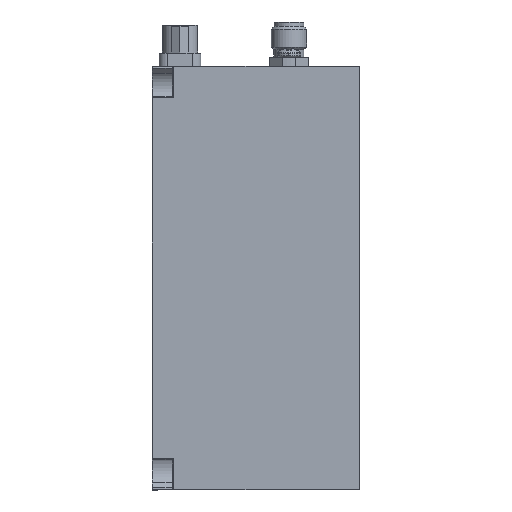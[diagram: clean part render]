
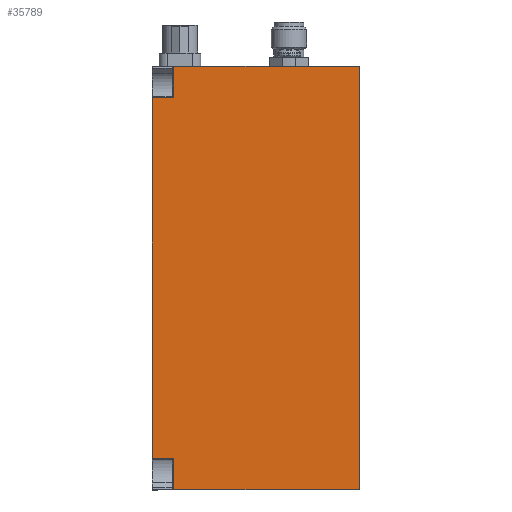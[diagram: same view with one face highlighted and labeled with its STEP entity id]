
A CAD part, left-side view. The second image highlights one B-rep face of the part: STEP entity #35789.
In plain terms, the highlighted planar face has unit normal (-1, 0, 0).
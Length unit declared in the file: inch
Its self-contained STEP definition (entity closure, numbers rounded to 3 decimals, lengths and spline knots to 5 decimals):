
#556 = CARTESIAN_POINT ( 'NONE',  ( -2., 0.069, -1.5 ) ) ;
#2050 = LINE ( 'NONE', #10570, #31388 ) ;
#2281 = DIRECTION ( 'NONE',  ( 0., 0., -1. ) ) ;
#3378 = CARTESIAN_POINT ( 'NONE',  ( -2., 1.53445, 1.5 ) ) ;
#3607 = CARTESIAN_POINT ( 'NONE',  ( -2., 0.069, 1.5 ) ) ;
#4306 = VERTEX_POINT ( 'NONE', #43351 ) ;
#4594 = EDGE_CURVE ( 'NONE', #4306, #6595, #8844, .T. ) ;
#4854 = DIRECTION ( 'NONE',  ( 0., 0., 1. ) ) ;
#4945 = VECTOR ( 'NONE', #41378, 39.37008 ) ;
#5077 = VECTOR ( 'NONE', #10779, 39.37008 ) ;
#5505 = ORIENTED_EDGE ( 'NONE', *, *, #34676, .T. ) ;
#6595 = VERTEX_POINT ( 'NONE', #14347 ) ;
#6783 = VECTOR ( 'NONE', #40730, 39.37008 ) ;
#7114 = CARTESIAN_POINT ( 'NONE',  ( -2., 1.38445, 1.27698 ) ) ;
#8665 = VECTOR ( 'NONE', #27672, 39.37008 ) ;
#8844 = LINE ( 'NONE', #24662, #19518 ) ;
#8995 = CARTESIAN_POINT ( 'NONE',  ( -2., 1.38445, -1.27698 ) ) ;
#9755 = ORIENTED_EDGE ( 'NONE', *, *, #4594, .F. ) ;
#10570 = CARTESIAN_POINT ( 'NONE',  ( -2., 1.39445, 1.27698 ) ) ;
#10779 = DIRECTION ( 'NONE',  ( 0., -1., 0. ) ) ;
#11855 = ORIENTED_EDGE ( 'NONE', *, *, #13221, .F. ) ;
#12223 = EDGE_CURVE ( 'NONE', #16497, #23565, #22716, .T. ) ;
#12514 = VERTEX_POINT ( 'NONE', #8995 ) ;
#13221 = EDGE_CURVE ( 'NONE', #12514, #4306, #47489, .T. ) ;
#14347 = CARTESIAN_POINT ( 'NONE',  ( -2., 1.53445, 1.27698 ) ) ;
#16197 = LINE ( 'NONE', #556, #6783 ) ;
#16454 = EDGE_CURVE ( 'NONE', #12514, #16789, #38444, .T. ) ;
#16497 = VERTEX_POINT ( 'NONE', #23479 ) ;
#16789 = VERTEX_POINT ( 'NONE', #45061 ) ;
#17487 = CARTESIAN_POINT ( 'NONE',  ( -2., 1.39445, -1.27698 ) ) ;
#19518 = VECTOR ( 'NONE', #4854, 39.37008 ) ;
#21427 = VERTEX_POINT ( 'NONE', #3607 ) ;
#22716 = LINE ( 'NONE', #23238, #43900 ) ;
#23138 = CARTESIAN_POINT ( 'NONE',  ( -2., 1.38445, -1.5 ) ) ;
#23238 = CARTESIAN_POINT ( 'NONE',  ( -2., 1.38445, 1.27698 ) ) ;
#23479 = CARTESIAN_POINT ( 'NONE',  ( -2., 1.38445, 1.5 ) ) ;
#23565 = VERTEX_POINT ( 'NONE', #7114 ) ;
#24662 = CARTESIAN_POINT ( 'NONE',  ( -2., 1.53445, -1.5 ) ) ;
#24976 = ORIENTED_EDGE ( 'NONE', *, *, #43271, .T. ) ;
#26215 = DIRECTION ( 'NONE',  ( 1., 0., 0. ) ) ;
#26859 = VERTEX_POINT ( 'NONE', #48623 ) ;
#27265 = ORIENTED_EDGE ( 'NONE', *, *, #16454, .T. ) ;
#27672 = DIRECTION ( 'NONE',  ( 0., -1., 0. ) ) ;
#30507 = DIRECTION ( 'NONE',  ( 0., 1., 0. ) ) ;
#31388 = VECTOR ( 'NONE', #30507, 39.37008 ) ;
#31900 = EDGE_LOOP ( 'NONE', ( #11855, #27265, #24976, #48979, #51404, #46948, #5505, #9755 ) ) ;
#34676 = EDGE_CURVE ( 'NONE', #23565, #6595, #2050, .T. ) ;
#34754 = CARTESIAN_POINT ( 'NONE',  ( -2., 1.53445, -1.5 ) ) ;
#35735 = LINE ( 'NONE', #34754, #5077 ) ;
#35789 = ADVANCED_FACE ( 'NONE', ( #44801 ), #49784, .F. ) ;
#38444 = LINE ( 'NONE', #23138, #49054 ) ;
#40545 = LINE ( 'NONE', #3378, #8665 ) ;
#40730 = DIRECTION ( 'NONE',  ( 0., 0., 1. ) ) ;
#41378 = DIRECTION ( 'NONE',  ( 0., 1., 0. ) ) ;
#43271 = EDGE_CURVE ( 'NONE', #16789, #26859, #35735, .T. ) ;
#43351 = CARTESIAN_POINT ( 'NONE',  ( -2., 1.53445, -1.27698 ) ) ;
#43900 = VECTOR ( 'NONE', #51171, 39.37008 ) ;
#44208 = EDGE_CURVE ( 'NONE', #16497, #21427, #40545, .T. ) ;
#44397 = EDGE_CURVE ( 'NONE', #26859, #21427, #16197, .T. ) ;
#44801 = FACE_OUTER_BOUND ( 'NONE', #31900, .T. ) ;
#45061 = CARTESIAN_POINT ( 'NONE',  ( -2., 1.38445, -1.5 ) ) ;
#46948 = ORIENTED_EDGE ( 'NONE', *, *, #12223, .T. ) ;
#47014 = DIRECTION ( 'NONE',  ( 0., 0., -1. ) ) ;
#47489 = LINE ( 'NONE', #17487, #4945 ) ;
#48623 = CARTESIAN_POINT ( 'NONE',  ( -2., 0.069, -1.5 ) ) ;
#48979 = ORIENTED_EDGE ( 'NONE', *, *, #44397, .T. ) ;
#49054 = VECTOR ( 'NONE', #47014, 39.37008 ) ;
#49784 = PLANE ( 'NONE',  #51418 ) ;
#50152 = CARTESIAN_POINT ( 'NONE',  ( -2., 1.53445, -1.5 ) ) ;
#51171 = DIRECTION ( 'NONE',  ( 0., 0., -1. ) ) ;
#51404 = ORIENTED_EDGE ( 'NONE', *, *, #44208, .F. ) ;
#51418 = AXIS2_PLACEMENT_3D ( 'NONE', #50152, #26215, #2281 ) ;
